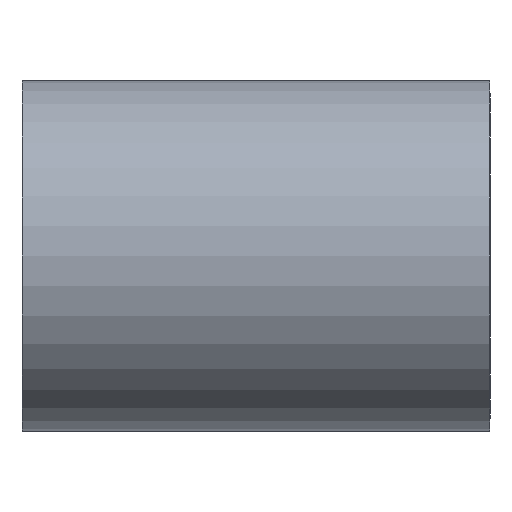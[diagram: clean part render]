
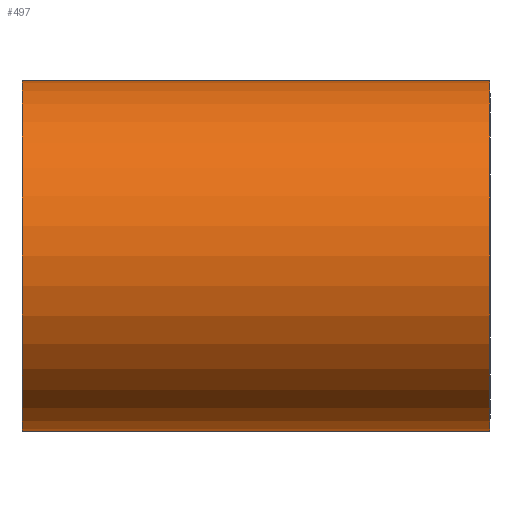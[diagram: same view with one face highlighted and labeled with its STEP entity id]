
A CAD part, front view. The second image highlights one B-rep face of the part: STEP entity #497.
In plain terms, the highlighted cylindrical face has radius 15 mm (diameter 30 mm), a partial arc.
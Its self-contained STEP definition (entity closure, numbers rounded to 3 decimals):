
#1 = DIRECTION ( 'NONE',  ( -1., 0., 0. ) ) ;
#32 = CARTESIAN_POINT ( 'NONE',  ( 20., 0., -15. ) ) ;
#39 = DIRECTION ( 'NONE',  ( 0., 0., 1. ) ) ;
#51 = CARTESIAN_POINT ( 'NONE',  ( 20., 0., 0. ) ) ;
#52 = CARTESIAN_POINT ( 'NONE',  ( 20., 0., 15. ) ) ;
#55 = CARTESIAN_POINT ( 'NONE',  ( -20., 0., -15. ) ) ;
#62 = EDGE_CURVE ( 'NONE', #259, #566, #174, .T. ) ;
#63 = DIRECTION ( 'NONE',  ( -1., 0., 0. ) ) ;
#88 = AXIS2_PLACEMENT_3D ( 'NONE', #51, #317, #39 ) ;
#99 = DIRECTION ( 'NONE',  ( -1., 0., 0. ) ) ;
#129 = LINE ( 'NONE', #570, #640 ) ;
#143 = CIRCLE ( 'NONE', #607, 15. ) ;
#174 = LINE ( 'NONE', #610, #723 ) ;
#192 = CIRCLE ( 'NONE', #88, 15. ) ;
#237 = DIRECTION ( 'NONE',  ( -1., 0., 0. ) ) ;
#259 = VERTEX_POINT ( 'NONE', #32 ) ;
#275 = ORIENTED_EDGE ( 'NONE', *, *, #62, .F. ) ;
#317 = DIRECTION ( 'NONE',  ( -1., 0., 0. ) ) ;
#326 = CARTESIAN_POINT ( 'NONE',  ( -20., 0., 0. ) ) ;
#328 = EDGE_CURVE ( 'NONE', #259, #581, #192, .T. ) ;
#344 = CYLINDRICAL_SURFACE ( 'NONE', #478, 15. ) ;
#345 = EDGE_LOOP ( 'NONE', ( #275, #715, #532, #672 ) ) ;
#401 = EDGE_CURVE ( 'NONE', #581, #465, #129, .T. ) ;
#434 = DIRECTION ( 'NONE',  ( 0., 0., 1. ) ) ;
#465 = VERTEX_POINT ( 'NONE', #679 ) ;
#478 = AXIS2_PLACEMENT_3D ( 'NONE', #591, #99, #703 ) ;
#497 = ADVANCED_FACE ( 'NONE', ( #622 ), #344, .T. ) ;
#532 = ORIENTED_EDGE ( 'NONE', *, *, #401, .T. ) ;
#566 = VERTEX_POINT ( 'NONE', #55 ) ;
#570 = CARTESIAN_POINT ( 'NONE',  ( 0., 0., 15. ) ) ;
#581 = VERTEX_POINT ( 'NONE', #52 ) ;
#591 = CARTESIAN_POINT ( 'NONE',  ( 0., 0., 0. ) ) ;
#607 = AXIS2_PLACEMENT_3D ( 'NONE', #326, #1, #434 ) ;
#610 = CARTESIAN_POINT ( 'NONE',  ( 0., 0., -15. ) ) ;
#622 = FACE_OUTER_BOUND ( 'NONE', #345, .T. ) ;
#640 = VECTOR ( 'NONE', #237, 1000. ) ;
#669 = EDGE_CURVE ( 'NONE', #566, #465, #143, .T. ) ;
#672 = ORIENTED_EDGE ( 'NONE', *, *, #669, .F. ) ;
#679 = CARTESIAN_POINT ( 'NONE',  ( -20., 0., 15. ) ) ;
#703 = DIRECTION ( 'NONE',  ( 0., 0., 1. ) ) ;
#715 = ORIENTED_EDGE ( 'NONE', *, *, #328, .T. ) ;
#723 = VECTOR ( 'NONE', #63, 1000. ) ;
